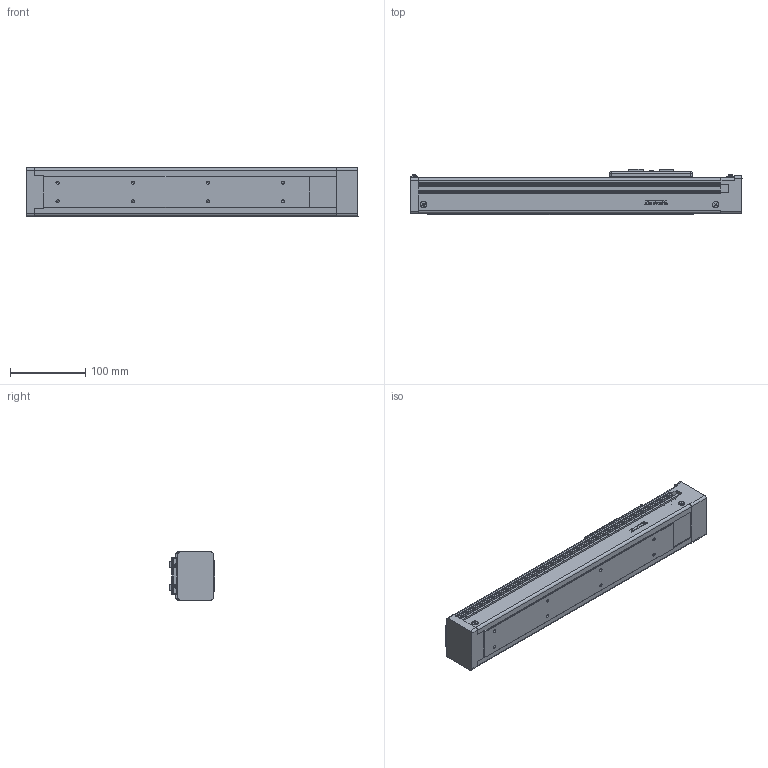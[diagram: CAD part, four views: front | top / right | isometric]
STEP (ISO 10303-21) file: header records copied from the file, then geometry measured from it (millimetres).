
FILE_DESCRIPTION(/* description */ (''),/* implementation_level */ '2;1');
FILE_NAME(/* name */ 'D:\混合母檔20191031\混和母檔\混和母檔\bin\Debug\Download\3D\KE655C-250AF0\KE655C-250AF0.stp',/* time_stamp */ '2019-11-04T13:45:39+08:00',/* author */ ('user'),/* organization */ (''),/* preprocessor_version */ 'ST-DEVELOPER v16.13',/* originating_system */ 'Autodesk Inventor 2018',/* authorisation */ '');
FILE_SCHEMA (('AUTOMOTIVE_DESIGN { 1 0 10303 214 3 1 1 }'));
Length unit declared in the file: millimetre
Products named in the file (3): KE655C-250AF0; KE65-F0-BP; KE65-SL
Assembly tree (2 placements, depth 2):
  KE655C-250AF0
    KE65-F0-BP
    KE65-SL
Bounding box: 442 x 60 x 64.57 mm (x, y, z)
Volume: 1299069.7 mm3; surface area: 153110 mm2
Topology: 2 solids, 17 shells, 1080 faces, 2928 edges, 1920 vertices
Faces by surface type: plane 581, cone 162, cylinder 137, bspline 136, torus 54, sphere 10
Full cylindrical faces by diameter (mm): 2.459 x8, 2.729 x4, 3 x4, 3.242 x8, 3.5 x6, 3.571 x4, 4.134 x8, 4.2 x4, 6 x1, 8 x1, 8.4 x8, 30 x1
Entity records: 39383 total; most frequent: CARTESIAN_POINT 12907, ORIENTED_EDGE 5444, DIRECTION 4898, EDGE_CURVE 2722, VERTEX_POINT 1849, LINE 1652, VECTOR 1652, AXIS2_PLACEMENT_3D 1623
